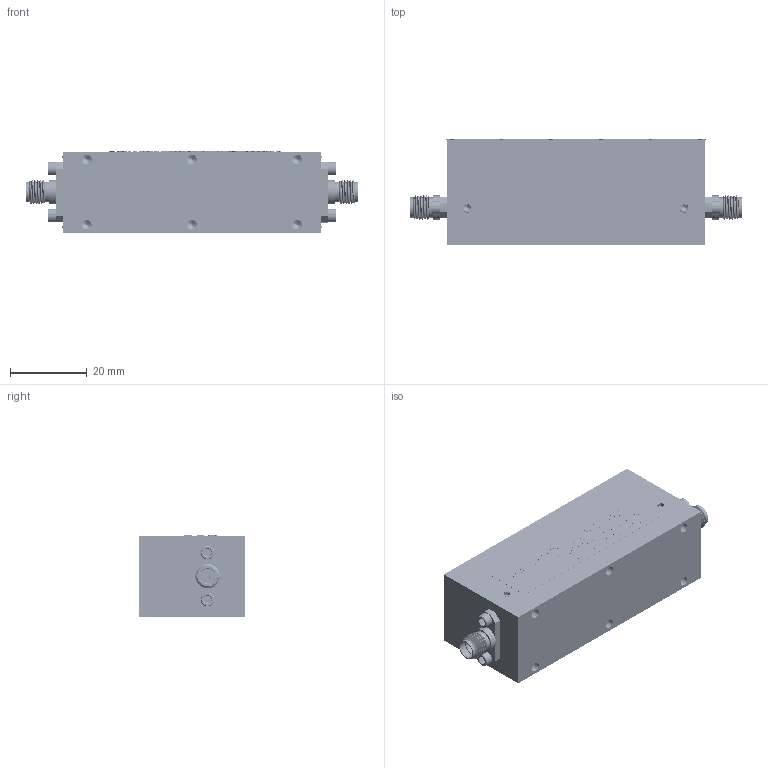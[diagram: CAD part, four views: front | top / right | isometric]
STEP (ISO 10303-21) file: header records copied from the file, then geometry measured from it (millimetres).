
FILE_DESCRIPTION (( 'STEP AP214' ), '1' );
FILE_NAME ('NW-FL-03BPCV-2113-SFSF-M01.STEP', '2026-01-19T19:00:23', ( '' ), ( '' ), 'SwSTEP 2.0', 'SolidWorks 2021', '' );
FILE_SCHEMA (( 'AUTOMOTIVE_DESIGN' ));
Length unit declared in the file: inch
Products named in the file (8): A6070-2114 - cut; A6070-2111 for customer; 92196A075_92196A075; A6070-2112; 901_9891_RFX_Cavfil; 91771A055 (0170086) - SCREW, PFHMS, SS, #0-80 X .250L_91771A055; 92311A142_18-8 SS CUP POINT SET SCREW_92311A142; NW-FL-03BPCV-2113-SFSF-M01
Assembly tree (23 placements, depth 2):
  NW-FL-03BPCV-2113-SFSF-M01
    A6070-2111 for customer
    A6070-2112
    901_9891_RFX_Cavfil  x2
    92196A075_92196A075  x4
    92311A142_18-8 SS CUP POINT SET SCREW_92311A142  x2
    91771A055 (0170086) - SCREW, PFHMS, SS, #0-80 X .250L_91771A055  x12
    A6070-2114 - cut
Bounding box: 86.61 x 27.43 x 21.18 mm (x, y, z)
Volume: 37281 mm3; surface area: 16829.7 mm2
Topology: 21 solids, 27 shells, 3710 faces, 9677 edges, 6078 vertices
Faces by surface type: cone 1168, cylinder 1097, plane 810, bspline 627, torus 8
Entity records: 91664 total; most frequent: CARTESIAN_POINT 44409, ORIENTED_EDGE 8414, DIRECTION 5067, EDGE_CURVE 4210, VERTEX_POINT 2750, VECTOR 2239, LINE 2239, EDGE_LOOP 1745
